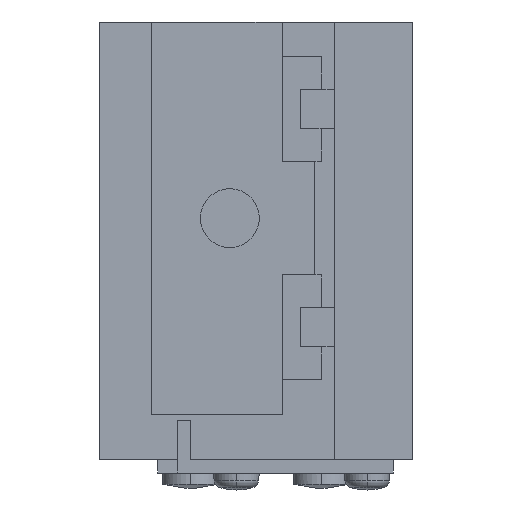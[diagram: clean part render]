
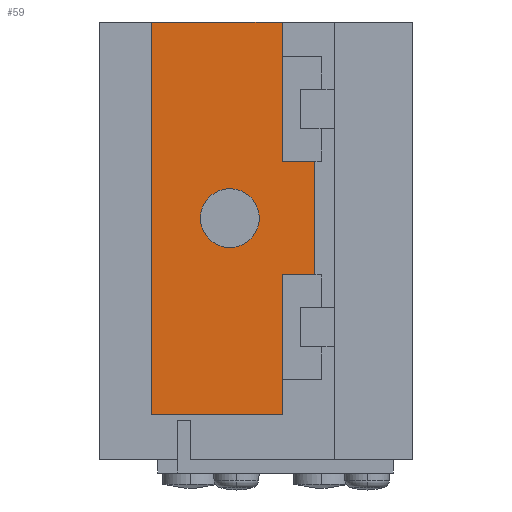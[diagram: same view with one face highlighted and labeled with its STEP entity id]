
A CAD part, left-side view. The second image highlights one B-rep face of the part: STEP entity #59.
In plain terms, the highlighted planar face has unit normal (-1, 0, 0).
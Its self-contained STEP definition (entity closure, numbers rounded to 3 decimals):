
#6 = ORIENTED_EDGE ( 'NONE', *, *, #2436, .F. ) ;
#7 = ORIENTED_EDGE ( 'NONE', *, *, #2612, .F. ) ;
#8 = ORIENTED_EDGE ( 'NONE', *, *, #2399, .F. ) ;
#9 = ORIENTED_EDGE ( 'NONE', *, *, #2388, .F. ) ;
#59 = ADVANCED_FACE ( 'NONE', ( #2541, #2540 ), #2539, .F. ) ;
#60 = EDGE_LOOP ( 'NONE', ( #241, #244 ) ) ;
#64 = EDGE_CURVE ( 'NONE', #608, #2441, #2527, .T. ) ;
#162 = ORIENTED_EDGE ( 'NONE', *, *, #607, .F. ) ;
#163 = ORIENTED_EDGE ( 'NONE', *, *, #861, .F. ) ;
#241 = ORIENTED_EDGE ( 'NONE', *, *, #242, .T. ) ;
#242 = EDGE_CURVE ( 'NONE', #2149, #2148, #2805, .T. ) ;
#243 = EDGE_LOOP ( 'NONE', ( #245, #246, #162, #163, #6, #7, #8, #9 ) ) ;
#244 = ORIENTED_EDGE ( 'NONE', *, *, #2147, .T. ) ;
#245 = ORIENTED_EDGE ( 'NONE', *, *, #2440, .F. ) ;
#246 = ORIENTED_EDGE ( 'NONE', *, *, #64, .F. ) ;
#607 = EDGE_CURVE ( 'NONE', #862, #608, #3248, .T. ) ;
#608 = VERTEX_POINT ( 'NONE', #3244 ) ;
#861 = EDGE_CURVE ( 'NONE', #2422, #862, #3819, .T. ) ;
#862 = VERTEX_POINT ( 'NONE', #3815 ) ;
#2147 = EDGE_CURVE ( 'NONE', #2148, #2149, #6310, .T. ) ;
#2148 = VERTEX_POINT ( 'NONE', #6404 ) ;
#2149 = VERTEX_POINT ( 'NONE', #6403 ) ;
#2388 = EDGE_CURVE ( 'NONE', #2626, #2389, #6741, .T. ) ;
#2389 = VERTEX_POINT ( 'NONE', #6737 ) ;
#2399 = EDGE_CURVE ( 'NONE', #2389, #2562, #6998, .T. ) ;
#2422 = VERTEX_POINT ( 'NONE', #6947 ) ;
#2428 = VERTEX_POINT ( 'NONE', #7026 ) ;
#2436 = EDGE_CURVE ( 'NONE', #2428, #2422, #7015, .T. ) ;
#2440 = EDGE_CURVE ( 'NONE', #2441, #2626, #7005, .T. ) ;
#2441 = VERTEX_POINT ( 'NONE', #6911 ) ;
#2524 = DIRECTION ( 'NONE',  ( 0., 0., 1. ) ) ;
#2525 = VECTOR ( 'NONE', #2524, 1000. ) ;
#2526 = CARTESIAN_POINT ( 'NONE',  ( -15., 20., 15. ) ) ;
#2527 = LINE ( 'NONE', #2526, #2525 ) ;
#2535 = DIRECTION ( 'NONE',  ( 0., 0., -1. ) ) ;
#2536 = DIRECTION ( 'NONE',  ( 1., 0., 0. ) ) ;
#2537 = CARTESIAN_POINT ( 'NONE',  ( -15., 7.5, 15. ) ) ;
#2538 = AXIS2_PLACEMENT_3D ( 'NONE', #2537, #2536, #2535 ) ;
#2539 = PLANE ( 'NONE',  #2538 ) ;
#2540 = FACE_OUTER_BOUND ( 'NONE', #243, .T. ) ;
#2541 = FACE_BOUND ( 'NONE', #60, .T. ) ;
#2562 = VERTEX_POINT ( 'NONE', #6866 ) ;
#2612 = EDGE_CURVE ( 'NONE', #2562, #2428, #6922, .T. ) ;
#2626 = VERTEX_POINT ( 'NONE', #7038 ) ;
#2801 = DIRECTION ( 'NONE',  ( 0., 0., -1. ) ) ;
#2802 = DIRECTION ( 'NONE',  ( 1., 0., 0. ) ) ;
#2803 = CARTESIAN_POINT ( 'NONE',  ( -15., 14., 0. ) ) ;
#2804 = AXIS2_PLACEMENT_3D ( 'NONE', #2803, #2802, #2801 ) ;
#2805 = CIRCLE ( 'NONE', #2804, 2.25 ) ;
#3244 = CARTESIAN_POINT ( 'NONE',  ( -15., 20., -15. ) ) ;
#3245 = DIRECTION ( 'NONE',  ( 0., 1., 0. ) ) ;
#3246 = VECTOR ( 'NONE', #3245, 1000. ) ;
#3247 = CARTESIAN_POINT ( 'NONE',  ( -15., 20., -15. ) ) ;
#3248 = LINE ( 'NONE', #3247, #3246 ) ;
#3815 = CARTESIAN_POINT ( 'NONE',  ( -15., 10., -15. ) ) ;
#3816 = DIRECTION ( 'NONE',  ( 0., 0., -1. ) ) ;
#3817 = VECTOR ( 'NONE', #3816, 1000. ) ;
#3818 = CARTESIAN_POINT ( 'NONE',  ( -15., 10., -15. ) ) ;
#3819 = LINE ( 'NONE', #3818, #3817 ) ;
#6310 = CIRCLE ( 'NONE', #6408, 2.25 ) ;
#6403 = CARTESIAN_POINT ( 'NONE',  ( -15., 14., -2.25 ) ) ;
#6404 = CARTESIAN_POINT ( 'NONE',  ( -15., 14., 2.25 ) ) ;
#6405 = DIRECTION ( 'NONE',  ( 0., 0., -1. ) ) ;
#6406 = DIRECTION ( 'NONE',  ( 1., 0., 0. ) ) ;
#6407 = CARTESIAN_POINT ( 'NONE',  ( -15., 14., 0. ) ) ;
#6408 = AXIS2_PLACEMENT_3D ( 'NONE', #6407, #6406, #6405 ) ;
#6737 = CARTESIAN_POINT ( 'NONE',  ( -15., 10., 4.35 ) ) ;
#6738 = DIRECTION ( 'NONE',  ( 0., 0., -1. ) ) ;
#6739 = VECTOR ( 'NONE', #6738, 1000. ) ;
#6740 = CARTESIAN_POINT ( 'NONE',  ( -15., 10., 4.35 ) ) ;
#6741 = LINE ( 'NONE', #6740, #6739 ) ;
#6866 = CARTESIAN_POINT ( 'NONE',  ( -15., 7.5, 4.35 ) ) ;
#6911 = CARTESIAN_POINT ( 'NONE',  ( -15., 20., 15. ) ) ;
#6912 = DIRECTION ( 'NONE',  ( 0., -1., 0. ) ) ;
#6913 = VECTOR ( 'NONE', #6912, 1000. ) ;
#6919 = DIRECTION ( 'NONE',  ( 0., 0., -1. ) ) ;
#6920 = VECTOR ( 'NONE', #6919, 1000. ) ;
#6921 = CARTESIAN_POINT ( 'NONE',  ( -15., 7.5, -4.35 ) ) ;
#6922 = LINE ( 'NONE', #6921, #6920 ) ;
#6947 = CARTESIAN_POINT ( 'NONE',  ( -15., 10., -4.35 ) ) ;
#6997 = CARTESIAN_POINT ( 'NONE',  ( -15., 7.5, 4.35 ) ) ;
#6998 = LINE ( 'NONE', #6997, #7003 ) ;
#7002 = DIRECTION ( 'NONE',  ( 0., -1., 0. ) ) ;
#7003 = VECTOR ( 'NONE', #7002, 1000. ) ;
#7004 = CARTESIAN_POINT ( 'NONE',  ( -15., 10., 15. ) ) ;
#7005 = LINE ( 'NONE', #7004, #6913 ) ;
#7012 = DIRECTION ( 'NONE',  ( 0., 1., 0. ) ) ;
#7013 = VECTOR ( 'NONE', #7012, 1000. ) ;
#7014 = CARTESIAN_POINT ( 'NONE',  ( -15., 10., -4.35 ) ) ;
#7015 = LINE ( 'NONE', #7014, #7013 ) ;
#7026 = CARTESIAN_POINT ( 'NONE',  ( -15., 7.5, -4.35 ) ) ;
#7038 = CARTESIAN_POINT ( 'NONE',  ( -15., 10., 15. ) ) ;
